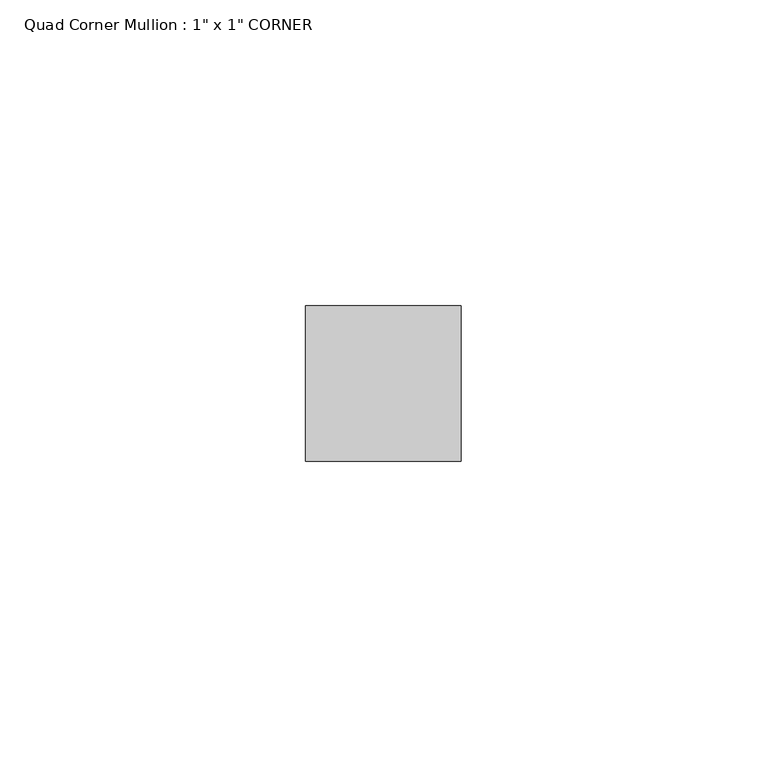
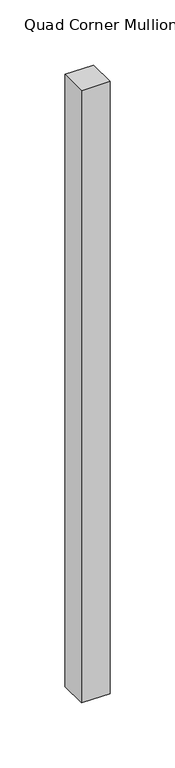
"""IFC4 building model written with IfcOpenShell, lengths in millimetres: member geometry."""

from ifc_helpers import new_model, si_unit, frame, origin, place, context, project, spatial, polyline, outline, extrude, source, transform, mapped, element, save


def member_7df1a24c(model_context):
    return source(origin(), model_context, "Body", "SweptSolid", [
        extrude(outline(polyline([(0.0, 25.4), (0.0, 0.0), (-25.4, 0.0), (-25.4, 25.4), (0.0, 25.4)])), frame((0.0, 0.0, -574.6749983), z_axis=(0.0, 0.0, 1.0), x_axis=(1.0, 0.0, 0.0)), (0.0, 0.0, 1.0), 574.6749983),
    ])


if __name__ == "__main__":
    model = new_model("IFC4")
    model_context = context("Model", 3, world=origin())
    ifc_project = project(units=[si_unit("LENGTHUNIT", "METRE", prefix="MILLI")], contexts=[model_context])
    site = spatial("IfcSite", under=ifc_project)
    building = spatial("IfcBuilding", under=site)
    placement = place(None, origin())
    member_shape = member_7df1a24c(model_context)
    element("IfcMember", 1, ObjectType="Quad Corner Mullion : 1\" x 1\" CORNER", at=placement, inside=building, context=model_context, shape_type="MappedRepresentation", body=[
        mapped(member_shape, transform((0.0, 0.0, 0.0), x_axis=(1.0, 0.0, 0.0), y_axis=(0.0, 1.0, 0.0), z_axis=(0.0, 0.0, 1.0))),
    ])
    save(model, "model.ifc")
